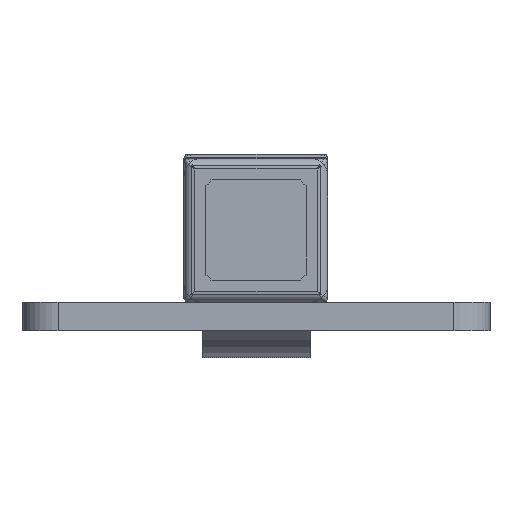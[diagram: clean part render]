
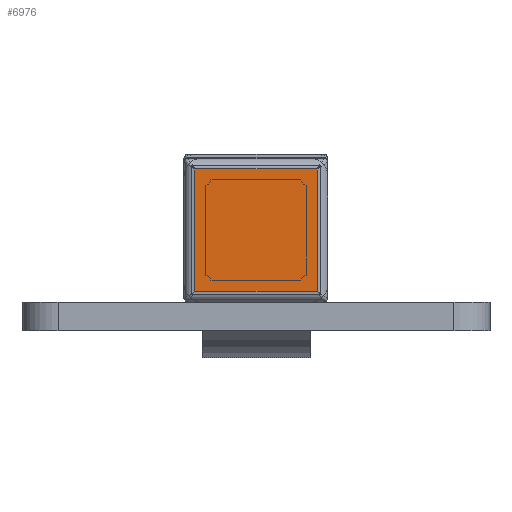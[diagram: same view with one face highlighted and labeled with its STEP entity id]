
A CAD part, front view. The second image highlights one B-rep face of the part: STEP entity #6976.
In plain terms, the highlighted planar face has unit normal (0, -1, 0).
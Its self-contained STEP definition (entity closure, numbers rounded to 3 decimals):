
#617 = CARTESIAN_POINT ( 'NONE',  ( -17., -5., 17. ) ) ;
#624 = VECTOR ( 'NONE', #5672, 1000. ) ;
#690 = DIRECTION ( 'NONE',  ( 0., 0., 1. ) ) ;
#853 = ORIENTED_EDGE ( 'NONE', *, *, #9309, .T. ) ;
#1102 = VECTOR ( 'NONE', #5604, 1000. ) ;
#2677 = LINE ( 'NONE', #7828, #624 ) ;
#3145 = LINE ( 'NONE', #4121, #1102 ) ;
#4116 = LINE ( 'NONE', #7669, #9499 ) ;
#4121 = CARTESIAN_POINT ( 'NONE',  ( -19., -5., 17. ) ) ;
#4384 = CARTESIAN_POINT ( 'NONE',  ( -17., -5., -17. ) ) ;
#4460 = VECTOR ( 'NONE', #4933, 1000. ) ;
#4511 = PLANE ( 'NONE',  #9039 ) ;
#4690 = LINE ( 'NONE', #6404, #4460 ) ;
#4933 = DIRECTION ( 'NONE',  ( 1., 0., 0. ) ) ;
#5159 = ORIENTED_EDGE ( 'NONE', *, *, #9256, .T. ) ;
#5247 = DIRECTION ( 'NONE',  ( 0., -1., 0. ) ) ;
#5415 = FACE_OUTER_BOUND ( 'NONE', #5866, .T. ) ;
#5464 = ORIENTED_EDGE ( 'NONE', *, *, #9198, .T. ) ;
#5570 = CARTESIAN_POINT ( 'NONE',  ( 17., -5., -17. ) ) ;
#5604 = DIRECTION ( 'NONE',  ( -1., 0., 0. ) ) ;
#5672 = DIRECTION ( 'NONE',  ( 0., 0., -1. ) ) ;
#5705 = VERTEX_POINT ( 'NONE', #5570 ) ;
#5866 = EDGE_LOOP ( 'NONE', ( #5464, #5159, #8992, #853 ) ) ;
#6404 = CARTESIAN_POINT ( 'NONE',  ( 19., -5., -17. ) ) ;
#6514 = VERTEX_POINT ( 'NONE', #8473 ) ;
#6976 = ADVANCED_FACE ( 'NONE', ( #5415 ), #4511, .T. ) ;
#7664 = VERTEX_POINT ( 'NONE', #617 ) ;
#7669 = CARTESIAN_POINT ( 'NONE',  ( 17., -5., 19. ) ) ;
#7828 = CARTESIAN_POINT ( 'NONE',  ( -17., -5., -19. ) ) ;
#8005 = VERTEX_POINT ( 'NONE', #4384 ) ;
#8394 = DIRECTION ( 'NONE',  ( 0., 0., 1. ) ) ;
#8473 = CARTESIAN_POINT ( 'NONE',  ( 17., -5., 17. ) ) ;
#8992 = ORIENTED_EDGE ( 'NONE', *, *, #9296, .T. ) ;
#9039 = AXIS2_PLACEMENT_3D ( 'NONE', #9628, #5247, #690 ) ;
#9198 = EDGE_CURVE ( 'NONE', #5705, #6514, #4116, .T. ) ;
#9256 = EDGE_CURVE ( 'NONE', #6514, #7664, #3145, .T. ) ;
#9296 = EDGE_CURVE ( 'NONE', #7664, #8005, #2677, .T. ) ;
#9309 = EDGE_CURVE ( 'NONE', #8005, #5705, #4690, .T. ) ;
#9499 = VECTOR ( 'NONE', #8394, 1000. ) ;
#9628 = CARTESIAN_POINT ( 'NONE',  ( 0., -5., 0. ) ) ;
